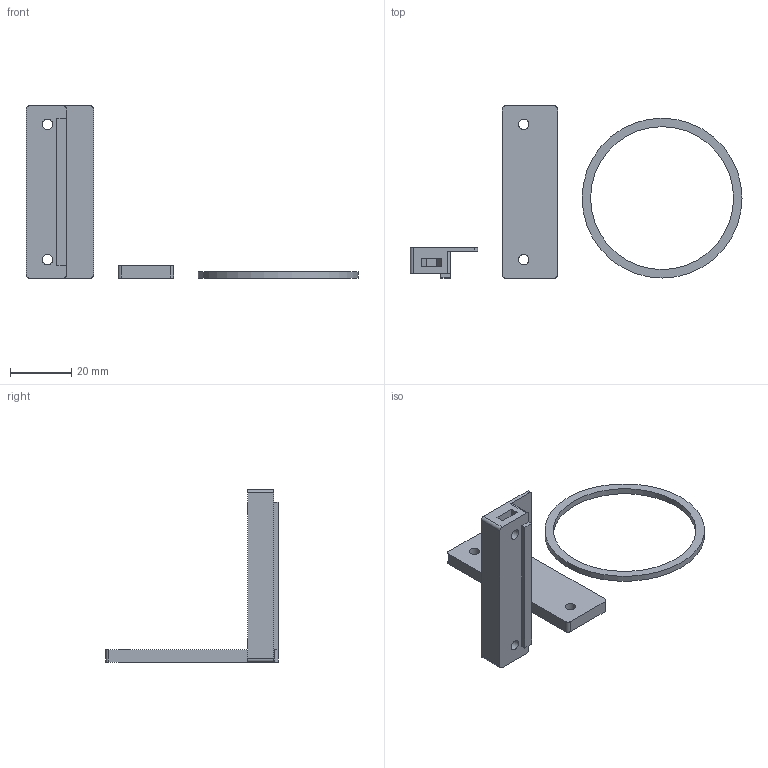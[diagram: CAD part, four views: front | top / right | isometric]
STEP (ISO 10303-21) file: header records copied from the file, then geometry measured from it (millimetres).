
FILE_DESCRIPTION(('Open CASCADE Model'),'2;1');
FILE_NAME('Open CASCADE Shape Model','2026-09-09T13:59:16',('Author'),( 'Open CASCADE'),'Open CASCADE STEP processor 7.9','Open CASCADE 7.9' ,'Unknown');
FILE_SCHEMA(('AUTOMOTIVE_DESIGN { 1 0 10303 214 1 1 1 1 }'));
Length unit declared in the file: millimetre
Products named in the file (4): Open CASCADE STEP translator 7.9 5; Open CASCADE STEP translator 7.9 5.1; Open CASCADE STEP translator 7.9 5.2; Open CASCADE STEP translator 7.9 5.3
Assembly tree (3 placements, depth 2):
  Open CASCADE STEP translator 7.9 5
    Open CASCADE STEP translator 7.9 5.1
    Open CASCADE STEP translator 7.9 5.2
    Open CASCADE STEP translator 7.9 5.3
Bounding box: 108 x 56 x 56 mm (x, y, z)
Volume: 11492.8 mm3; surface area: 8259.7 mm2
Topology: 3 solids, 3 shells, 52 faces, 132 edges, 88 vertices
Faces by surface type: plane 34, cylinder 18
Full cylindrical faces by diameter (mm): 3.4 x6, 46.5 x1, 52 x1
Entity records: 3445 total; most frequent: CARTESIAN_POINT 678, DIRECTION 521, LINE 324, VECTOR 324, ORIENTED_EDGE 264, PCURVE 264, DEFINITIONAL_REPRESENTATION 264, EDGE_CURVE 132
